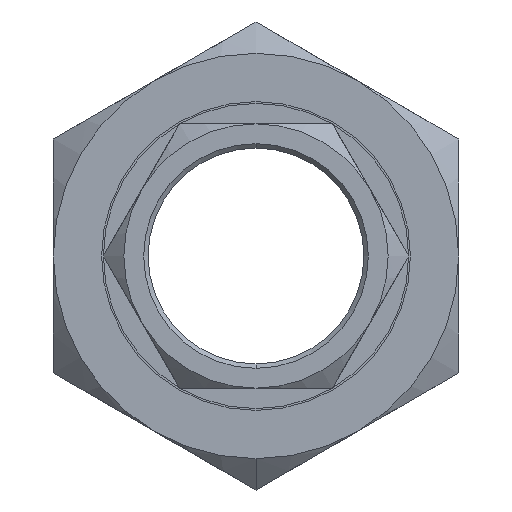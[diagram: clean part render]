
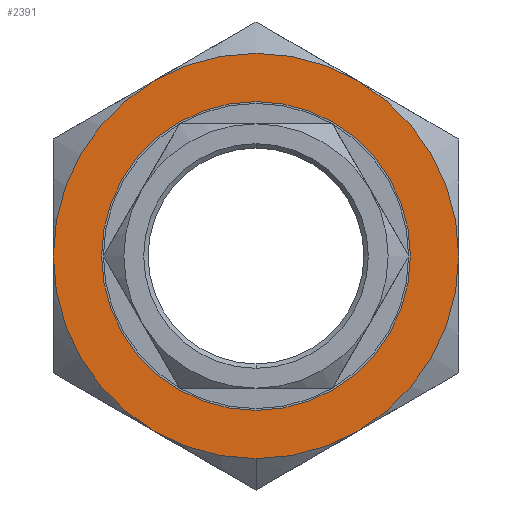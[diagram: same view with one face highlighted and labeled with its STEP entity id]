
A CAD part, front view. The second image highlights one B-rep face of the part: STEP entity #2391.
In plain terms, the highlighted planar face has unit normal (0, -1, 0).
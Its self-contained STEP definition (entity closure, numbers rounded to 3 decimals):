
#1 = EDGE_CURVE ( 'NONE', #1043, #1455, #1415, .T. ) ;
#7 = AXIS2_PLACEMENT_3D ( 'NONE', #1727, #1724, #1714 ) ;
#25 = CARTESIAN_POINT ( 'NONE',  ( 0., -10., 0. ) ) ;
#56 = AXIS2_PLACEMENT_3D ( 'NONE', #2515, #2236, #1967 ) ;
#92 = VERTEX_POINT ( 'NONE', #1492 ) ;
#95 = EDGE_LOOP ( 'NONE', ( #2623, #177, #1867, #1893, #545, #1369, #912 ) ) ;
#177 = ORIENTED_EDGE ( 'NONE', *, *, #2388, .F. ) ;
#179 = VERTEX_POINT ( 'NONE', #1363 ) ;
#245 = VERTEX_POINT ( 'NONE', #1161 ) ;
#253 = CIRCLE ( 'NONE', #2163, 23. ) ;
#269 = CARTESIAN_POINT ( 'NONE',  ( 0., -10., -23. ) ) ;
#271 = DIRECTION ( 'NONE',  ( 0., 1., 0. ) ) ;
#301 = PLANE ( 'NONE',  #902 ) ;
#319 = EDGE_CURVE ( 'NONE', #1455, #92, #253, .T. ) ;
#433 = CIRCLE ( 'NONE', #1343, 17.521 ) ;
#478 = DIRECTION ( 'NONE',  ( 0., 0., -1. ) ) ;
#545 = ORIENTED_EDGE ( 'NONE', *, *, #1, .F. ) ;
#546 = CARTESIAN_POINT ( 'NONE',  ( 0., -10., 0. ) ) ;
#581 = DIRECTION ( 'NONE',  ( 0., 0., 1. ) ) ;
#600 = ORIENTED_EDGE ( 'NONE', *, *, #2594, .T. ) ;
#756 = CARTESIAN_POINT ( 'NONE',  ( 0., -10., 0. ) ) ;
#856 = DIRECTION ( 'NONE',  ( 0., 1., 0. ) ) ;
#902 = AXIS2_PLACEMENT_3D ( 'NONE', #25, #2404, #2136 ) ;
#912 = ORIENTED_EDGE ( 'NONE', *, *, #1412, .T. ) ;
#934 = DIRECTION ( 'NONE',  ( 0., 0., 1. ) ) ;
#948 = DIRECTION ( 'NONE',  ( 0., 1., 0. ) ) ;
#951 = CARTESIAN_POINT ( 'NONE',  ( 0., -10., 0. ) ) ;
#983 = CARTESIAN_POINT ( 'NONE',  ( -11.5, -10., -19.919 ) ) ;
#1025 = CIRCLE ( 'NONE', #1911, 23. ) ;
#1043 = VERTEX_POINT ( 'NONE', #269 ) ;
#1054 = CARTESIAN_POINT ( 'NONE',  ( 0., -10., 0. ) ) ;
#1078 = CARTESIAN_POINT ( 'NONE',  ( 0., -10., -17.521 ) ) ;
#1086 = VERTEX_POINT ( 'NONE', #2134 ) ;
#1146 = DIRECTION ( 'NONE',  ( 0., 0., 1. ) ) ;
#1150 = VERTEX_POINT ( 'NONE', #1078 ) ;
#1161 = CARTESIAN_POINT ( 'NONE',  ( 0., -10., 17.521 ) ) ;
#1187 = ORIENTED_EDGE ( 'NONE', *, *, #2593, .T. ) ;
#1343 = AXIS2_PLACEMENT_3D ( 'NONE', #2069, #1805, #1525 ) ;
#1363 = CARTESIAN_POINT ( 'NONE',  ( 11.5, -10., -19.919 ) ) ;
#1369 = ORIENTED_EDGE ( 'NONE', *, *, #1606, .F. ) ;
#1389 = CARTESIAN_POINT ( 'NONE',  ( 0., -10., 0. ) ) ;
#1411 = DIRECTION ( 'NONE',  ( 0., 1., 0. ) ) ;
#1412 = EDGE_CURVE ( 'NONE', #179, #1918, #1025, .T. ) ;
#1415 = CIRCLE ( 'NONE', #7, 23. ) ;
#1455 = VERTEX_POINT ( 'NONE', #983 ) ;
#1492 = CARTESIAN_POINT ( 'NONE',  ( -23., -10., 0. ) ) ;
#1525 = DIRECTION ( 'NONE',  ( 0., 0., 1. ) ) ;
#1560 = EDGE_CURVE ( 'NONE', #92, #2035, #1646, .T. ) ;
#1606 = EDGE_CURVE ( 'NONE', #179, #1043, #2661, .T. ) ;
#1646 = CIRCLE ( 'NONE', #2098, 23. ) ;
#1698 = CARTESIAN_POINT ( 'NONE',  ( 0., -10., 0. ) ) ;
#1714 = DIRECTION ( 'NONE',  ( 0., 0., 1. ) ) ;
#1724 = DIRECTION ( 'NONE',  ( 0., 1., 0. ) ) ;
#1727 = CARTESIAN_POINT ( 'NONE',  ( 0., -10., 0. ) ) ;
#1805 = DIRECTION ( 'NONE',  ( 0., 1., 0. ) ) ;
#1815 = CARTESIAN_POINT ( 'NONE',  ( -11.5, -10., 19.919 ) ) ;
#1867 = ORIENTED_EDGE ( 'NONE', *, *, #1560, .F. ) ;
#1893 = ORIENTED_EDGE ( 'NONE', *, *, #319, .F. ) ;
#1911 = AXIS2_PLACEMENT_3D ( 'NONE', #756, #2296, #478 ) ;
#1914 = EDGE_LOOP ( 'NONE', ( #600, #1187 ) ) ;
#1918 = VERTEX_POINT ( 'NONE', #2248 ) ;
#1967 = DIRECTION ( 'NONE',  ( 0., 0., 1. ) ) ;
#2035 = VERTEX_POINT ( 'NONE', #1815 ) ;
#2069 = CARTESIAN_POINT ( 'NONE',  ( 0., -10., 0. ) ) ;
#2098 = AXIS2_PLACEMENT_3D ( 'NONE', #1698, #1411, #1146 ) ;
#2106 = AXIS2_PLACEMENT_3D ( 'NONE', #1054, #2613, #2331 ) ;
#2134 = CARTESIAN_POINT ( 'NONE',  ( 11.5, -10., 19.919 ) ) ;
#2136 = DIRECTION ( 'NONE',  ( 0., 0., 1. ) ) ;
#2161 = FACE_OUTER_BOUND ( 'NONE', #95, .T. ) ;
#2163 = AXIS2_PLACEMENT_3D ( 'NONE', #951, #948, #934 ) ;
#2188 = EDGE_CURVE ( 'NONE', #1086, #1918, #2465, .T. ) ;
#2236 = DIRECTION ( 'NONE',  ( 0., 1., 0. ) ) ;
#2248 = CARTESIAN_POINT ( 'NONE',  ( 23., -10., 0. ) ) ;
#2259 = CIRCLE ( 'NONE', #2589, 23. ) ;
#2296 = DIRECTION ( 'NONE',  ( 0., -1., 0. ) ) ;
#2331 = DIRECTION ( 'NONE',  ( 0., 0., 1. ) ) ;
#2388 = EDGE_CURVE ( 'NONE', #2035, #1086, #2259, .T. ) ;
#2391 = ADVANCED_FACE ( 'NONE', ( #2161, #2611 ), #301, .F. ) ;
#2404 = DIRECTION ( 'NONE',  ( 0., 1., 0. ) ) ;
#2465 = CIRCLE ( 'NONE', #2627, 23. ) ;
#2474 = CIRCLE ( 'NONE', #2106, 17.521 ) ;
#2515 = CARTESIAN_POINT ( 'NONE',  ( 0., -10., 0. ) ) ;
#2589 = AXIS2_PLACEMENT_3D ( 'NONE', #1389, #856, #581 ) ;
#2593 = EDGE_CURVE ( 'NONE', #245, #1150, #2474, .T. ) ;
#2594 = EDGE_CURVE ( 'NONE', #1150, #245, #433, .T. ) ;
#2611 = FACE_BOUND ( 'NONE', #1914, .T. ) ;
#2613 = DIRECTION ( 'NONE',  ( 0., 1., 0. ) ) ;
#2623 = ORIENTED_EDGE ( 'NONE', *, *, #2188, .F. ) ;
#2627 = AXIS2_PLACEMENT_3D ( 'NONE', #546, #271, #2655 ) ;
#2655 = DIRECTION ( 'NONE',  ( 0., 0., 1. ) ) ;
#2661 = CIRCLE ( 'NONE', #56, 23. ) ;
